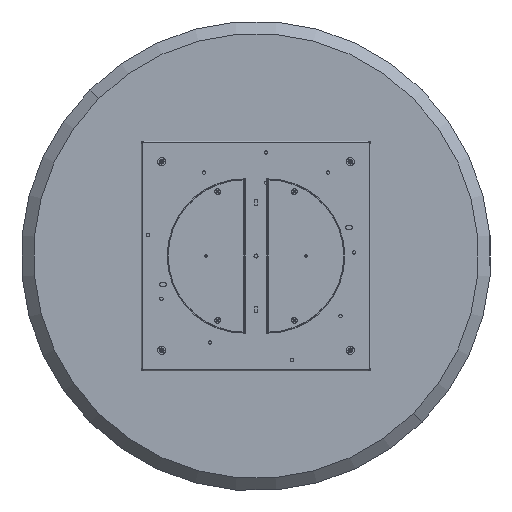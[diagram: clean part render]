
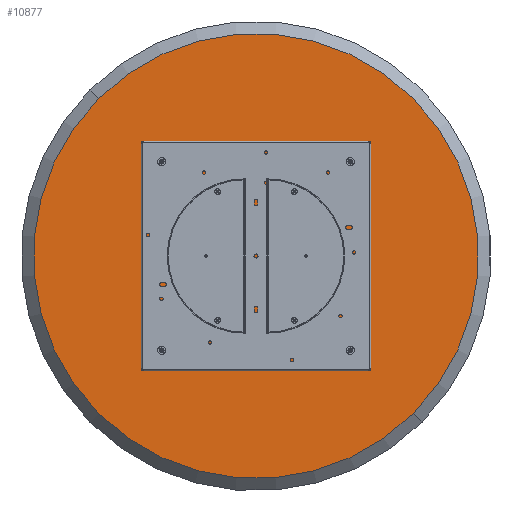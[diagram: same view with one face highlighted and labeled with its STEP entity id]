
A CAD part, front view. The second image highlights one B-rep face of the part: STEP entity #10877.
In plain terms, the highlighted planar face has unit normal (0, -1, 0).
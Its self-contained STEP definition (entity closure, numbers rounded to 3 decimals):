
#32 = EDGE_CURVE ( 'NONE', #3254, #5583, #38, .T. ) ;
#38 = CIRCLE ( 'NONE', #14210, 663. ) ;
#553 = EDGE_CURVE ( 'NONE', #12071, #15224, #16362, .T. ) ;
#608 = DIRECTION ( 'NONE',  ( 0., -1., 0. ) ) ;
#708 = FACE_BOUND ( 'NONE', #6045, .T. ) ;
#794 = PLANE ( 'NONE',  #5131 ) ;
#840 = CARTESIAN_POINT ( 'NONE',  ( 0., 0., 0. ) ) ;
#896 = ORIENTED_EDGE ( 'NONE', *, *, #5622, .F. ) ;
#1030 = DIRECTION ( 'NONE',  ( 0., 0., -1. ) ) ;
#1248 = CARTESIAN_POINT ( 'NONE',  ( 0., 0., 0. ) ) ;
#1388 = EDGE_CURVE ( 'NONE', #14624, #6909, #1947, .T. ) ;
#1919 = DIRECTION ( 'NONE',  ( 0., -1., 0. ) ) ;
#1947 = CIRCLE ( 'NONE', #12637, 3.4 ) ;
#1974 = DIRECTION ( 'NONE',  ( 0., 0., -1. ) ) ;
#2057 = CARTESIAN_POINT ( 'NONE',  ( 0., 0., -394.1 ) ) ;
#2070 = CARTESIAN_POINT ( 'NONE',  ( 0., 0., 663. ) ) ;
#2266 = AXIS2_PLACEMENT_3D ( 'NONE', #11974, #10719, #9938 ) ;
#2377 = ORIENTED_EDGE ( 'NONE', *, *, #4974, .F. ) ;
#2444 = DIRECTION ( 'NONE',  ( 0., -1., 0. ) ) ;
#2925 = EDGE_CURVE ( 'NONE', #11804, #14157, #6269, .T. ) ;
#3160 = AXIS2_PLACEMENT_3D ( 'NONE', #8813, #2444, #15337 ) ;
#3242 = CARTESIAN_POINT ( 'NONE',  ( 0., 0., 0. ) ) ;
#3254 = VERTEX_POINT ( 'NONE', #2070 ) ;
#3309 = VERTEX_POINT ( 'NONE', #13781 ) ;
#3316 = DIRECTION ( 'NONE',  ( 0., 0., -1. ) ) ;
#3440 = CARTESIAN_POINT ( 'NONE',  ( 0., 0., 397.5 ) ) ;
#3446 = VERTEX_POINT ( 'NONE', #6423 ) ;
#3462 = CARTESIAN_POINT ( 'NONE',  ( 397.5, 0., 0. ) ) ;
#3536 = DIRECTION ( 'NONE',  ( 0., -1., 0. ) ) ;
#3629 = CIRCLE ( 'NONE', #11376, 3.4 ) ;
#3807 = AXIS2_PLACEMENT_3D ( 'NONE', #3440, #1919, #8541 ) ;
#3854 = EDGE_CURVE ( 'NONE', #6909, #14624, #3629, .T. ) ;
#3866 = AXIS2_PLACEMENT_3D ( 'NONE', #3462, #4961, #8728 ) ;
#3940 = DIRECTION ( 'NONE',  ( 0., -1., 0. ) ) ;
#3970 = CIRCLE ( 'NONE', #16266, 663. ) ;
#3983 = CIRCLE ( 'NONE', #16005, 3.4 ) ;
#4961 = DIRECTION ( 'NONE',  ( 0., -1., 0. ) ) ;
#4974 = EDGE_CURVE ( 'NONE', #3446, #3309, #6611, .T. ) ;
#5102 = ORIENTED_EDGE ( 'NONE', *, *, #16431, .F. ) ;
#5115 = ORIENTED_EDGE ( 'NONE', *, *, #3854, .F. ) ;
#5131 = AXIS2_PLACEMENT_3D ( 'NONE', #3242, #13605, #1974 ) ;
#5467 = ORIENTED_EDGE ( 'NONE', *, *, #7561, .T. ) ;
#5523 = CARTESIAN_POINT ( 'NONE',  ( 0., 0., 394.1 ) ) ;
#5583 = VERTEX_POINT ( 'NONE', #7640 ) ;
#5622 = EDGE_CURVE ( 'NONE', #15224, #12071, #9835, .T. ) ;
#6045 = EDGE_LOOP ( 'NONE', ( #5102, #11837 ) ) ;
#6269 = CIRCLE ( 'NONE', #2266, 3.4 ) ;
#6315 = ORIENTED_EDGE ( 'NONE', *, *, #32, .T. ) ;
#6423 = CARTESIAN_POINT ( 'NONE',  ( -397.5, 0., 3.4 ) ) ;
#6611 = CIRCLE ( 'NONE', #11946, 3.4 ) ;
#6909 = VERTEX_POINT ( 'NONE', #2057 ) ;
#6986 = CARTESIAN_POINT ( 'NONE',  ( -397.5, 0., 0. ) ) ;
#6987 = CARTESIAN_POINT ( 'NONE',  ( 0., 0., -397.5 ) ) ;
#7256 = FACE_OUTER_BOUND ( 'NONE', #8124, .T. ) ;
#7485 = CARTESIAN_POINT ( 'NONE',  ( 397.5, 0., -3.4 ) ) ;
#7561 = EDGE_CURVE ( 'NONE', #5583, #3254, #3970, .T. ) ;
#7640 = CARTESIAN_POINT ( 'NONE',  ( 0., 0., -663. ) ) ;
#8021 = EDGE_CURVE ( 'NONE', #3309, #3446, #3983, .T. ) ;
#8124 = EDGE_LOOP ( 'NONE', ( #6315, #5467 ) ) ;
#8541 = DIRECTION ( 'NONE',  ( 0., 0., -1. ) ) ;
#8640 = CARTESIAN_POINT ( 'NONE',  ( 0., 0., -400.9 ) ) ;
#8728 = DIRECTION ( 'NONE',  ( 0., 0., -1. ) ) ;
#8813 = CARTESIAN_POINT ( 'NONE',  ( 0., 0., 397.5 ) ) ;
#8905 = DIRECTION ( 'NONE',  ( 0., -1., 0. ) ) ;
#9039 = DIRECTION ( 'NONE',  ( 0., 0., -1. ) ) ;
#9507 = FACE_BOUND ( 'NONE', #11601, .T. ) ;
#9591 = FACE_BOUND ( 'NONE', #12386, .T. ) ;
#9835 = CIRCLE ( 'NONE', #3160, 3.4 ) ;
#9938 = DIRECTION ( 'NONE',  ( 0., 0., -1. ) ) ;
#10719 = DIRECTION ( 'NONE',  ( 0., -1., 0. ) ) ;
#10877 = ADVANCED_FACE ( 'NONE', ( #7256, #9591, #13436, #708, #9507 ), #794, .T. ) ;
#11279 = ORIENTED_EDGE ( 'NONE', *, *, #1388, .F. ) ;
#11376 = AXIS2_PLACEMENT_3D ( 'NONE', #12503, #8905, #1030 ) ;
#11601 = EDGE_LOOP ( 'NONE', ( #896, #16103 ) ) ;
#11804 = VERTEX_POINT ( 'NONE', #13625 ) ;
#11837 = ORIENTED_EDGE ( 'NONE', *, *, #2925, .F. ) ;
#11935 = CARTESIAN_POINT ( 'NONE',  ( 0., 0., 400.9 ) ) ;
#11946 = AXIS2_PLACEMENT_3D ( 'NONE', #6986, #608, #15951 ) ;
#11974 = CARTESIAN_POINT ( 'NONE',  ( 397.5, 0., 0. ) ) ;
#12071 = VERTEX_POINT ( 'NONE', #11935 ) ;
#12256 = DIRECTION ( 'NONE',  ( 0., -1., 0. ) ) ;
#12362 = ORIENTED_EDGE ( 'NONE', *, *, #8021, .F. ) ;
#12386 = EDGE_LOOP ( 'NONE', ( #11279, #5115 ) ) ;
#12503 = CARTESIAN_POINT ( 'NONE',  ( 0., 0., -397.5 ) ) ;
#12637 = AXIS2_PLACEMENT_3D ( 'NONE', #6987, #12256, #3316 ) ;
#12680 = CIRCLE ( 'NONE', #3866, 3.4 ) ;
#13436 = FACE_BOUND ( 'NONE', #13587, .T. ) ;
#13587 = EDGE_LOOP ( 'NONE', ( #12362, #2377 ) ) ;
#13605 = DIRECTION ( 'NONE',  ( 0., -1., 0. ) ) ;
#13625 = CARTESIAN_POINT ( 'NONE',  ( 397.5, 0., 3.4 ) ) ;
#13781 = CARTESIAN_POINT ( 'NONE',  ( -397.5, 0., -3.4 ) ) ;
#14157 = VERTEX_POINT ( 'NONE', #7485 ) ;
#14210 = AXIS2_PLACEMENT_3D ( 'NONE', #840, #3536, #14841 ) ;
#14624 = VERTEX_POINT ( 'NONE', #8640 ) ;
#14841 = DIRECTION ( 'NONE',  ( 0., 0., -1. ) ) ;
#15223 = DIRECTION ( 'NONE',  ( 0., 0., -1. ) ) ;
#15224 = VERTEX_POINT ( 'NONE', #5523 ) ;
#15337 = DIRECTION ( 'NONE',  ( 0., 0., -1. ) ) ;
#15951 = DIRECTION ( 'NONE',  ( 0., 0., -1. ) ) ;
#16005 = AXIS2_PLACEMENT_3D ( 'NONE', #16557, #16474, #15223 ) ;
#16103 = ORIENTED_EDGE ( 'NONE', *, *, #553, .F. ) ;
#16266 = AXIS2_PLACEMENT_3D ( 'NONE', #1248, #3940, #9039 ) ;
#16362 = CIRCLE ( 'NONE', #3807, 3.4 ) ;
#16431 = EDGE_CURVE ( 'NONE', #14157, #11804, #12680, .T. ) ;
#16474 = DIRECTION ( 'NONE',  ( 0., -1., 0. ) ) ;
#16557 = CARTESIAN_POINT ( 'NONE',  ( -397.5, 0., 0. ) ) ;
